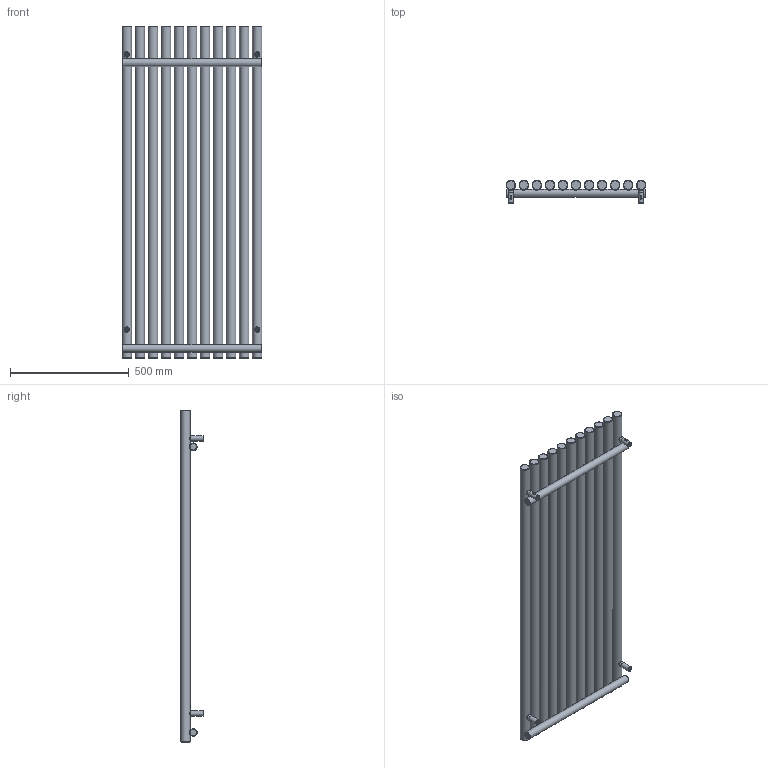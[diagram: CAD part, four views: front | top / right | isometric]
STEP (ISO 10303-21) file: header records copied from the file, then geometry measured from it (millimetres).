
FILE_DESCRIPTION(/* description */ (''),/* implementation_level */ '2;1');
FILE_NAME(/* name */ 'Z:\R\G\P\RGP116 - Grzejniki Geyser\Work\Inventor\Circolo (Rolo V, Rolo H)\ROLO-ROOM\Marketing\Bryły 3D\Zaokrąglone\WLROR140059-ES-CK-(Z).stp',/* time_stamp */ '2024-04-02T15:52:15+02:00',/* author */ ('NowAd'),/* organization */ (''),/* preprocessor_version */ 'ST-DEVELOPER v17.2',/* originating_system */ 'Autodesk Inventor 2019',/* authorisation */ '');
FILE_SCHEMA (('AUTOMOTIVE_DESIGN { 1 0 10303 214 3 1 1 }'));
Length unit declared in the file: millimetre
Products named in the file (3): WLROR140059-ES-CK-(Z); PGROR140059-ES-CK-(K); CK-V-fi40 marketing
Assembly tree (5 placements, depth 2):
  WLROR140059-ES-CK-(Z)
    PGROR140059-ES-CK-(K)
    CK-V-fi40 marketing  x4
Bounding box: 590 x 96.5 x 1400 mm (x, y, z)
Volume: 20339549.7 mm3; surface area: 2101593.7 mm2
Topology: 5 solids, 5 shells, 359 faces, 889 edges, 594 vertices
Faces by surface type: plane 144, cylinder 79, cone 60, torus 54, bspline 22
Full cylindrical faces by diameter (mm): 4.134 x4, 4.48 x4, 6.4 x4, 10 x4, 12 x4, 15.834 x4, 16 x4, 18.631 x2, 22 x4, 32 x2, 40 x11
Entity records: 9583 total; most frequent: CARTESIAN_POINT 5429, DIRECTION 862, ORIENTED_EDGE 816, EDGE_CURVE 408, AXIS2_PLACEMENT_3D 391, VERTEX_POINT 276, EDGE_LOOP 238, CIRCLE 221
